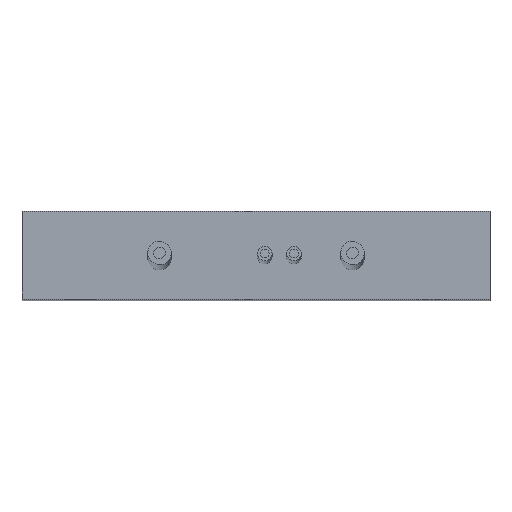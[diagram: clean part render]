
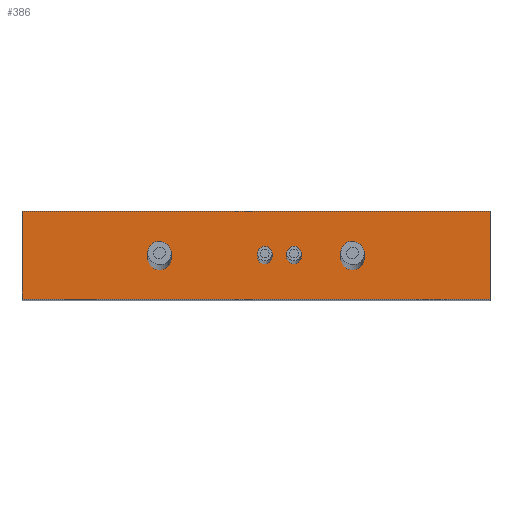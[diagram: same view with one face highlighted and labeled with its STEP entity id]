
A CAD part, top view. The second image highlights one B-rep face of the part: STEP entity #386.
In plain terms, the highlighted planar face has unit normal (0, 0, 1).
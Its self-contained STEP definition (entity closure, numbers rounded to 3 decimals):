
#13=LINE($,#608,#25);
#16=LINE($,#622,#28);
#19=LINE($,#628,#31);
#22=LINE($,#641,#34);
#25=VECTOR($,#509,15.);
#28=VECTOR($,#522,80.);
#31=VECTOR($,#527,15.);
#34=VECTOR($,#540,80.);
#49=PLANE($,#439);
#80=FACE_BOUND($,#153,.T.);
#81=FACE_BOUND($,#154,.T.);
#82=FACE_BOUND($,#155,.T.);
#83=FACE_BOUND($,#156,.T.);
#84=FACE_BOUND($,#157,.T.);
#153=EDGE_LOOP($,(#314));
#154=EDGE_LOOP($,(#315));
#155=EDGE_LOOP($,(#316));
#156=EDGE_LOOP($,(#317));
#157=EDGE_LOOP($,(#318,#319,#320,#321));
#161=CIRCLE($,#396,1.25);
#165=CIRCLE($,#404,1.25);
#169=CIRCLE($,#412,2.);
#173=CIRCLE($,#420,2.);
#185=VERTEX_POINT($,#564);
#189=VERTEX_POINT($,#576);
#193=VERTEX_POINT($,#588);
#197=VERTEX_POINT($,#600);
#198=VERTEX_POINT($,#604);
#200=VERTEX_POINT($,#607);
#206=VERTEX_POINT($,#621);
#208=VERTEX_POINT($,#627);
#217=EDGE_CURVE($,#185,#185,#161,.T.);
#221=EDGE_CURVE($,#189,#189,#165,.T.);
#225=EDGE_CURVE($,#193,#193,#169,.T.);
#229=EDGE_CURVE($,#197,#197,#173,.T.);
#231=EDGE_CURVE($,#200,#198,#13,.T.);
#238=EDGE_CURVE($,#206,#200,#16,.T.);
#241=EDGE_CURVE($,#208,#206,#19,.T.);
#248=EDGE_CURVE($,#198,#208,#22,.T.);
#314=ORIENTED_EDGE($,*,*,#217,.T.);
#315=ORIENTED_EDGE($,*,*,#221,.T.);
#316=ORIENTED_EDGE($,*,*,#225,.T.);
#317=ORIENTED_EDGE($,*,*,#229,.T.);
#318=ORIENTED_EDGE($,*,*,#248,.T.);
#319=ORIENTED_EDGE($,*,*,#241,.T.);
#320=ORIENTED_EDGE($,*,*,#238,.T.);
#321=ORIENTED_EDGE($,*,*,#231,.T.);
#386=ADVANCED_FACE($,(#80,#81,#82,#83,#84),#49,.T.);
#396=AXIS2_PLACEMENT_3D($,#565,#454,#455);
#404=AXIS2_PLACEMENT_3D($,#577,#470,#471);
#412=AXIS2_PLACEMENT_3D($,#589,#486,#487);
#420=AXIS2_PLACEMENT_3D($,#601,#502,#503);
#439=AXIS2_PLACEMENT_3D($,#648,#552,#553);
#454=DIRECTION('center_axis',(0.,0.,
-1.));
#455=DIRECTION('ref_axis',(-1.,0.,0.));
#470=DIRECTION('center_axis',(0.,0.,
-1.));
#471=DIRECTION('ref_axis',(-1.,0.,0.));
#486=DIRECTION('center_axis',(0.,0.,
-1.));
#487=DIRECTION('ref_axis',(-0.66,-0.751,0.));
#502=DIRECTION('center_axis',(0.,0.,
-1.));
#503=DIRECTION('ref_axis',(-0.66,-0.751,0.));
#509=DIRECTION($,(0.,1.,0.));
#522=DIRECTION($,(1.,0.,0.));
#527=DIRECTION($,(0.,-1.,0.));
#540=DIRECTION($,(-1.,0.,0.));
#552=DIRECTION('center_axis',(0.,0.,
1.));
#553=DIRECTION('ref_axis',(1.,0.,0.));
#564=CARTESIAN_POINT('',(55.576,13.328,106.404));
#565=CARTESIAN_POINT('Origin',(54.326,13.328,106.404));
#576=CARTESIAN_POINT('',(60.576,13.328,106.404));
#577=CARTESIAN_POINT('Origin',(59.326,13.328,106.404));
#588=CARTESIAN_POINT('',(37.644,14.58,106.404));
#589=CARTESIAN_POINT('Origin',(36.323,13.078,106.404));
#600=CARTESIAN_POINT('',(70.644,14.58,106.404));
#601=CARTESIAN_POINT('Origin',(69.323,13.078,106.404));
#604=CARTESIAN_POINT('',(92.823,21.078,106.404));
#607=CARTESIAN_POINT('',(92.823,6.078,106.404));
#608=CARTESIAN_POINT($,(92.823,21.078,106.404));
#621=CARTESIAN_POINT('',(12.823,6.078,106.404));
#622=CARTESIAN_POINT($,(92.823,6.078,106.404));
#627=CARTESIAN_POINT('',(12.823,21.078,106.404));
#628=CARTESIAN_POINT($,(12.823,6.078,106.404));
#641=CARTESIAN_POINT($,(12.823,21.078,106.404));
#648=CARTESIAN_POINT('Origin',(52.823,13.578,106.404));
